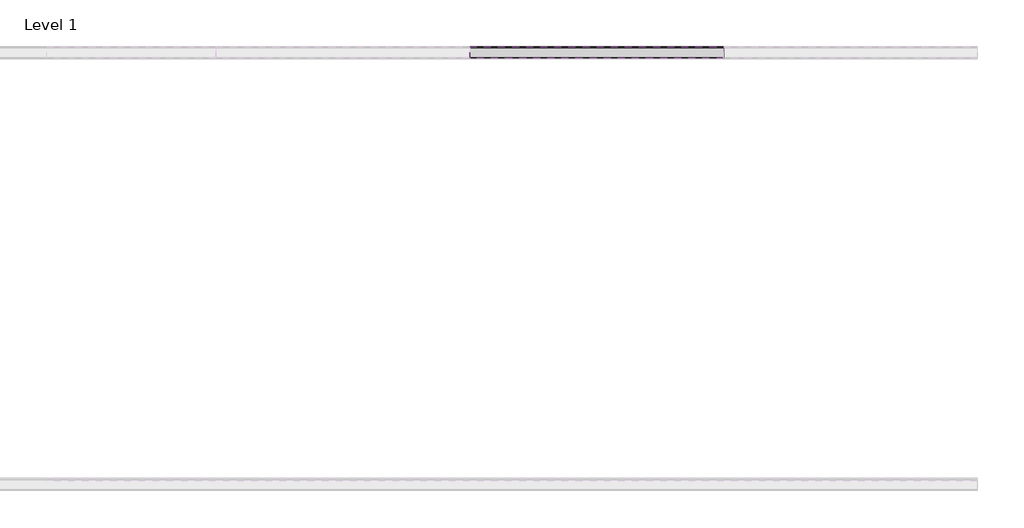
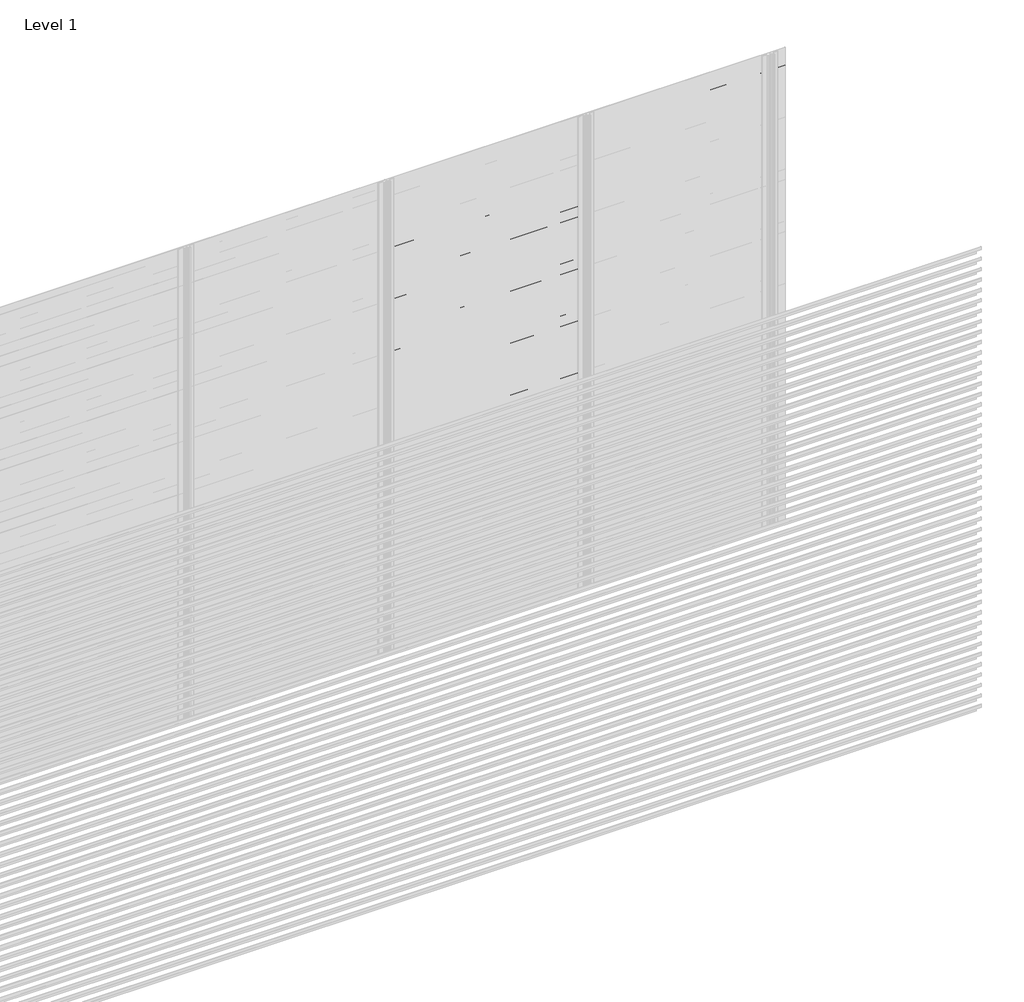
# One storey, part 23 of 540: 43 proxies.
"""IFC4 building model written with IfcOpenShell, lengths in millimetres."""

from ifc_helpers import new_model, si_unit, origin, place, context, project, spatial, faceted_brep, element, save

model = new_model("IFC4")

# Units and contexts
model_context = context("Model", 3, world=origin())
ifc_project = project(units=[si_unit("LENGTHUNIT", "METRE", prefix="MILLI")], contexts=[model_context])

# Site, building, storey
site = spatial("IfcSite", under=ifc_project)
building = spatial("IfcBuilding", under=site)
storey = spatial("IfcBuildingStorey", under=building, Name="Level 1", Elevation=0.0)

# Proxies
placement = place(None, origin())
element("IfcBuildingElementProxy", 1, Name="Wall Sweeps", at=placement, inside=storey, context=model_context, shape_type="Brep", body=[
    faceted_brep([(5266.6208097, 7042.0270068, 2583.5), (5266.6208097, 6988.2770068, 2621.0285629), (5266.6208097, 6988.2770068, 2640.0), (5266.6208097, 6987.0270068, 2640.0), (5266.6208097, 6987.0270068, 2620.3158044), (5266.6208097, 7040.7770068, 2582.7872415), (5266.6208097, 7040.7770068, 2564.2216933), (5266.6208097, 7042.0270068, 2563.5), (4066.6208097, 7042.0270068, 2583.5), (4066.6208097, 7042.0270068, 2563.5), (4066.6208097, 7040.7770068, 2564.2216933), (4066.6208097, 7040.7770068, 2582.7872415), (4066.6208097, 6987.0270068, 2620.3158044), (4066.6208097, 6987.0270068, 2640.0), (4066.6208097, 6988.2770068, 2640.0), (4066.6208097, 6988.2770068, 2621.0285629)], [[[0, 1, 2, 3, 4, 5, 6, 7]], [[8, 9, 10, 11, 12, 13, 14, 15]], [[1, 0, 8, 15]], [[2, 1, 15, 14]], [[4, 3, 13, 12]], [[6, 5, 11, 10]], [[7, 6, 10, 9]], [[0, 7, 9, 8]], [[3, 2, 14, 13]], [[5, 4, 12, 11]]]),
])
element("IfcBuildingElementProxy", 2, Name="Wall Sweeps", at=placement, inside=storey, context=model_context, shape_type="Brep", body=[
    faceted_brep([(5266.6208097, 7042.0270068, 2517.5), (5266.6208097, 6988.2770068, 2555.0285629), (5266.6208097, 6988.2770068, 2574.0), (5266.6208097, 6987.0270068, 2574.0), (5266.6208097, 6987.0270068, 2554.3158044), (5266.6208097, 7040.7770068, 2516.7872415), (5266.6208097, 7040.7770068, 2498.2216933), (5266.6208097, 7042.0270068, 2497.5), (4066.6208097, 7042.0270068, 2517.5), (4066.6208097, 7042.0270068, 2497.5), (4066.6208097, 7040.7770068, 2498.2216933), (4066.6208097, 7040.7770068, 2516.7872415), (4066.6208097, 6987.0270068, 2554.3158044), (4066.6208097, 6987.0270068, 2574.0), (4066.6208097, 6988.2770068, 2574.0), (4066.6208097, 6988.2770068, 2555.0285629)], [[[0, 1, 2, 3, 4, 5, 6, 7]], [[8, 9, 10, 11, 12, 13, 14, 15]], [[1, 0, 8, 15]], [[2, 1, 15, 14]], [[4, 3, 13, 12]], [[6, 5, 11, 10]], [[7, 6, 10, 9]], [[0, 7, 9, 8]], [[3, 2, 14, 13]], [[5, 4, 12, 11]]]),
])
element("IfcBuildingElementProxy", 3, Name="Wall Sweeps", at=placement, inside=storey, context=model_context, shape_type="Brep", body=[
    faceted_brep([(5266.6208097, 7042.0270068, 2451.5), (5266.6208097, 6988.2770068, 2489.0285629), (5266.6208097, 6988.2770068, 2508.0), (5266.6208097, 6987.0270068, 2508.0), (5266.6208097, 6987.0270068, 2488.3158044), (5266.6208097, 7040.7770068, 2450.7872415), (5266.6208097, 7040.7770068, 2432.2216933), (5266.6208097, 7042.0270068, 2431.5), (4066.6208097, 7042.0270068, 2451.5), (4066.6208097, 7042.0270068, 2431.5), (4066.6208097, 7040.7770068, 2432.2216933), (4066.6208097, 7040.7770068, 2450.7872415), (4066.6208097, 6987.0270068, 2488.3158044), (4066.6208097, 6987.0270068, 2508.0), (4066.6208097, 6988.2770068, 2508.0), (4066.6208097, 6988.2770068, 2489.0285629)], [[[0, 1, 2, 3, 4, 5, 6, 7]], [[8, 9, 10, 11, 12, 13, 14, 15]], [[1, 0, 8, 15]], [[2, 1, 15, 14]], [[4, 3, 13, 12]], [[6, 5, 11, 10]], [[7, 6, 10, 9]], [[0, 7, 9, 8]], [[3, 2, 14, 13]], [[5, 4, 12, 11]]]),
])
element("IfcBuildingElementProxy", 4, Name="Wall Sweeps", at=placement, inside=storey, context=model_context, shape_type="Brep", body=[
    faceted_brep([(5266.6208097, 7042.0270068, 2385.5), (5266.6208097, 6988.2770068, 2423.0285629), (5266.6208097, 6988.2770068, 2442.0), (5266.6208097, 6987.0270068, 2442.0), (5266.6208097, 6987.0270068, 2422.3158044), (5266.6208097, 7040.7770068, 2384.7872415), (5266.6208097, 7040.7770068, 2366.2216933), (5266.6208097, 7042.0270068, 2365.5), (4066.6208097, 7042.0270068, 2385.5), (4066.6208097, 7042.0270068, 2365.5), (4066.6208097, 7040.7770068, 2366.2216933), (4066.6208097, 7040.7770068, 2384.7872415), (4066.6208097, 6987.0270068, 2422.3158044), (4066.6208097, 6987.0270068, 2442.0), (4066.6208097, 6988.2770068, 2442.0), (4066.6208097, 6988.2770068, 2423.0285629)], [[[0, 1, 2, 3, 4, 5, 6, 7]], [[8, 9, 10, 11, 12, 13, 14, 15]], [[1, 0, 8, 15]], [[2, 1, 15, 14]], [[4, 3, 13, 12]], [[6, 5, 11, 10]], [[7, 6, 10, 9]], [[0, 7, 9, 8]], [[3, 2, 14, 13]], [[5, 4, 12, 11]]]),
])
element("IfcBuildingElementProxy", 5, Name="Wall Sweeps", at=placement, inside=storey, context=model_context, shape_type="Brep", body=[
    faceted_brep([(5266.6208097, 7042.0270068, 2319.5), (5266.6208097, 6988.2770068, 2357.0285629), (5266.6208097, 6988.2770068, 2376.0), (5266.6208097, 6987.0270068, 2376.0), (5266.6208097, 6987.0270068, 2356.3158044), (5266.6208097, 7040.7770068, 2318.7872415), (5266.6208097, 7040.7770068, 2300.2216933), (5266.6208097, 7042.0270068, 2299.5), (4066.6208097, 7042.0270068, 2319.5), (4066.6208097, 7042.0270068, 2299.5), (4066.6208097, 7040.7770068, 2300.2216933), (4066.6208097, 7040.7770068, 2318.7872415), (4066.6208097, 6987.0270068, 2356.3158044), (4066.6208097, 6987.0270068, 2376.0), (4066.6208097, 6988.2770068, 2376.0), (4066.6208097, 6988.2770068, 2357.0285629)], [[[0, 1, 2, 3, 4, 5, 6, 7]], [[8, 9, 10, 11, 12, 13, 14, 15]], [[1, 0, 8, 15]], [[2, 1, 15, 14]], [[4, 3, 13, 12]], [[6, 5, 11, 10]], [[7, 6, 10, 9]], [[0, 7, 9, 8]], [[3, 2, 14, 13]], [[5, 4, 12, 11]]]),
])
element("IfcBuildingElementProxy", 6, Name="Wall Sweeps", at=placement, inside=storey, context=model_context, shape_type="Brep", body=[
    faceted_brep([(5266.6208097, 7042.0270068, 2253.5), (5266.6208097, 6988.2770068, 2291.0285629), (5266.6208097, 6988.2770068, 2310.0), (5266.6208097, 6987.0270068, 2310.0), (5266.6208097, 6987.0270068, 2290.3158044), (5266.6208097, 7040.7770068, 2252.7872415), (5266.6208097, 7040.7770068, 2234.2216933), (5266.6208097, 7042.0270068, 2233.5), (4066.6208097, 7042.0270068, 2253.5), (4066.6208097, 7042.0270068, 2233.5), (4066.6208097, 7040.7770068, 2234.2216933), (4066.6208097, 7040.7770068, 2252.7872415), (4066.6208097, 6987.0270068, 2290.3158044), (4066.6208097, 6987.0270068, 2310.0), (4066.6208097, 6988.2770068, 2310.0), (4066.6208097, 6988.2770068, 2291.0285629)], [[[0, 1, 2, 3, 4, 5, 6, 7]], [[8, 9, 10, 11, 12, 13, 14, 15]], [[1, 0, 8, 15]], [[2, 1, 15, 14]], [[4, 3, 13, 12]], [[6, 5, 11, 10]], [[7, 6, 10, 9]], [[0, 7, 9, 8]], [[3, 2, 14, 13]], [[5, 4, 12, 11]]]),
])
element("IfcBuildingElementProxy", 7, Name="Wall Sweeps", at=placement, inside=storey, context=model_context, shape_type="Brep", body=[
    faceted_brep([(5266.6208097, 7042.0270068, 2187.5), (5266.6208097, 6988.2770068, 2225.0285629), (5266.6208097, 6988.2770068, 2244.0), (5266.6208097, 6987.0270068, 2244.0), (5266.6208097, 6987.0270068, 2224.3158044), (5266.6208097, 7040.7770068, 2186.7872415), (5266.6208097, 7040.7770068, 2168.2216933), (5266.6208097, 7042.0270068, 2167.5), (4066.6208097, 7042.0270068, 2187.5), (4066.6208097, 7042.0270068, 2167.5), (4066.6208097, 7040.7770068, 2168.2216933), (4066.6208097, 7040.7770068, 2186.7872415), (4066.6208097, 6987.0270068, 2224.3158044), (4066.6208097, 6987.0270068, 2244.0), (4066.6208097, 6988.2770068, 2244.0), (4066.6208097, 6988.2770068, 2225.0285629)], [[[0, 1, 2, 3, 4, 5, 6, 7]], [[8, 9, 10, 11, 12, 13, 14, 15]], [[1, 0, 8, 15]], [[2, 1, 15, 14]], [[4, 3, 13, 12]], [[6, 5, 11, 10]], [[7, 6, 10, 9]], [[0, 7, 9, 8]], [[3, 2, 14, 13]], [[5, 4, 12, 11]]]),
])
element("IfcBuildingElementProxy", 8, Name="Wall Sweeps", at=placement, inside=storey, context=model_context, shape_type="Brep", body=[
    faceted_brep([(5266.6208097, 7042.0270068, 2121.5), (5266.6208097, 6988.2770068, 2159.0285629), (5266.6208097, 6988.2770068, 2178.0), (5266.6208097, 6987.0270068, 2178.0), (5266.6208097, 6987.0270068, 2158.3158044), (5266.6208097, 7040.7770068, 2120.7872415), (5266.6208097, 7040.7770068, 2102.2216933), (5266.6208097, 7042.0270068, 2101.5), (4066.6208097, 7042.0270068, 2121.5), (4066.6208097, 7042.0270068, 2101.5), (4066.6208097, 7040.7770068, 2102.2216933), (4066.6208097, 7040.7770068, 2120.7872415), (4066.6208097, 6987.0270068, 2158.3158044), (4066.6208097, 6987.0270068, 2178.0), (4066.6208097, 6988.2770068, 2178.0), (4066.6208097, 6988.2770068, 2159.0285629)], [[[0, 1, 2, 3, 4, 5, 6, 7]], [[8, 9, 10, 11, 12, 13, 14, 15]], [[1, 0, 8, 15]], [[2, 1, 15, 14]], [[4, 3, 13, 12]], [[6, 5, 11, 10]], [[7, 6, 10, 9]], [[0, 7, 9, 8]], [[3, 2, 14, 13]], [[5, 4, 12, 11]]]),
])
element("IfcBuildingElementProxy", 9, Name="Wall Sweeps", at=placement, inside=storey, context=model_context, shape_type="Brep", body=[
    faceted_brep([(5266.6208097, 7042.0270068, 2055.5), (5266.6208097, 6988.2770068, 2093.0285629), (5266.6208097, 6988.2770068, 2112.0), (5266.6208097, 6987.0270068, 2112.0), (5266.6208097, 6987.0270068, 2092.3158044), (5266.6208097, 7040.7770068, 2054.7872415), (5266.6208097, 7040.7770068, 2036.2216933), (5266.6208097, 7042.0270068, 2035.5), (4066.6208097, 7042.0270068, 2055.5), (4066.6208097, 7042.0270068, 2035.5), (4066.6208097, 7040.7770068, 2036.2216933), (4066.6208097, 7040.7770068, 2054.7872415), (4066.6208097, 6987.0270068, 2092.3158044), (4066.6208097, 6987.0270068, 2112.0), (4066.6208097, 6988.2770068, 2112.0), (4066.6208097, 6988.2770068, 2093.0285629)], [[[0, 1, 2, 3, 4, 5, 6, 7]], [[8, 9, 10, 11, 12, 13, 14, 15]], [[1, 0, 8, 15]], [[2, 1, 15, 14]], [[4, 3, 13, 12]], [[6, 5, 11, 10]], [[7, 6, 10, 9]], [[0, 7, 9, 8]], [[3, 2, 14, 13]], [[5, 4, 12, 11]]]),
])
element("IfcBuildingElementProxy", 10, Name="Wall Sweeps", at=placement, inside=storey, context=model_context, shape_type="Brep", body=[
    faceted_brep([(5266.6208097, 7042.0270068, 1989.5), (5266.6208097, 6988.2770068, 2027.0285629), (5266.6208097, 6988.2770068, 2046.0), (5266.6208097, 6987.0270068, 2046.0), (5266.6208097, 6987.0270068, 2026.3158044), (5266.6208097, 7040.7770068, 1988.7872415), (5266.6208097, 7040.7770068, 1970.2216933), (5266.6208097, 7042.0270068, 1969.5), (4066.6208097, 7042.0270068, 1989.5), (4066.6208097, 7042.0270068, 1969.5), (4066.6208097, 7040.7770068, 1970.2216933), (4066.6208097, 7040.7770068, 1988.7872415), (4066.6208097, 6987.0270068, 2026.3158044), (4066.6208097, 6987.0270068, 2046.0), (4066.6208097, 6988.2770068, 2046.0), (4066.6208097, 6988.2770068, 2027.0285629)], [[[0, 1, 2, 3, 4, 5, 6, 7]], [[8, 9, 10, 11, 12, 13, 14, 15]], [[1, 0, 8, 15]], [[2, 1, 15, 14]], [[4, 3, 13, 12]], [[6, 5, 11, 10]], [[7, 6, 10, 9]], [[0, 7, 9, 8]], [[3, 2, 14, 13]], [[5, 4, 12, 11]]]),
])
element("IfcBuildingElementProxy", 11, Name="Wall Sweeps", at=placement, inside=storey, context=model_context, shape_type="Brep", body=[
    faceted_brep([(5266.6208097, 7042.0270068, 1923.5), (5266.6208097, 6988.2770068, 1961.0285629), (5266.6208097, 6988.2770068, 1980.0), (5266.6208097, 6987.0270068, 1980.0), (5266.6208097, 6987.0270068, 1960.3158044), (5266.6208097, 7040.7770068, 1922.7872415), (5266.6208097, 7040.7770068, 1904.2216933), (5266.6208097, 7042.0270068, 1903.5), (4066.6208097, 7042.0270068, 1923.5), (4066.6208097, 7042.0270068, 1903.5), (4066.6208097, 7040.7770068, 1904.2216933), (4066.6208097, 7040.7770068, 1922.7872415), (4066.6208097, 6987.0270068, 1960.3158044), (4066.6208097, 6987.0270068, 1980.0), (4066.6208097, 6988.2770068, 1980.0), (4066.6208097, 6988.2770068, 1961.0285629)], [[[0, 1, 2, 3, 4, 5, 6, 7]], [[8, 9, 10, 11, 12, 13, 14, 15]], [[1, 0, 8, 15]], [[2, 1, 15, 14]], [[4, 3, 13, 12]], [[6, 5, 11, 10]], [[7, 6, 10, 9]], [[0, 7, 9, 8]], [[3, 2, 14, 13]], [[5, 4, 12, 11]]]),
])
element("IfcBuildingElementProxy", 12, Name="Wall Sweeps", at=placement, inside=storey, context=model_context, shape_type="Brep", body=[
    faceted_brep([(5266.6208097, 7042.0270068, 1857.5), (5266.6208097, 6988.2770068, 1895.0285629), (5266.6208097, 6988.2770068, 1914.0), (5266.6208097, 6987.0270068, 1914.0), (5266.6208097, 6987.0270068, 1894.3158044), (5266.6208097, 7040.7770068, 1856.7872415), (5266.6208097, 7040.7770068, 1838.2216933), (5266.6208097, 7042.0270068, 1837.5), (4066.6208097, 7042.0270068, 1857.5), (4066.6208097, 7042.0270068, 1837.5), (4066.6208097, 7040.7770068, 1838.2216933), (4066.6208097, 7040.7770068, 1856.7872415), (4066.6208097, 6987.0270068, 1894.3158044), (4066.6208097, 6987.0270068, 1914.0), (4066.6208097, 6988.2770068, 1914.0), (4066.6208097, 6988.2770068, 1895.0285629)], [[[0, 1, 2, 3, 4, 5, 6, 7]], [[8, 9, 10, 11, 12, 13, 14, 15]], [[1, 0, 8, 15]], [[2, 1, 15, 14]], [[4, 3, 13, 12]], [[6, 5, 11, 10]], [[7, 6, 10, 9]], [[0, 7, 9, 8]], [[3, 2, 14, 13]], [[5, 4, 12, 11]]]),
])
element("IfcBuildingElementProxy", 13, Name="Wall Sweeps", at=placement, inside=storey, context=model_context, shape_type="Brep", body=[
    faceted_brep([(5266.6208097, 7042.0270068, 1791.5), (5266.6208097, 6988.2770068, 1829.0285629), (5266.6208097, 6988.2770068, 1848.0), (5266.6208097, 6987.0270068, 1848.0), (5266.6208097, 6987.0270068, 1828.3158044), (5266.6208097, 7040.7770068, 1790.7872415), (5266.6208097, 7040.7770068, 1772.2216933), (5266.6208097, 7042.0270068, 1771.5), (4066.6208097, 7042.0270068, 1791.5), (4066.6208097, 7042.0270068, 1771.5), (4066.6208097, 7040.7770068, 1772.2216933), (4066.6208097, 7040.7770068, 1790.7872415), (4066.6208097, 6987.0270068, 1828.3158044), (4066.6208097, 6987.0270068, 1848.0), (4066.6208097, 6988.2770068, 1848.0), (4066.6208097, 6988.2770068, 1829.0285629)], [[[0, 1, 2, 3, 4, 5, 6, 7]], [[8, 9, 10, 11, 12, 13, 14, 15]], [[1, 0, 8, 15]], [[2, 1, 15, 14]], [[4, 3, 13, 12]], [[6, 5, 11, 10]], [[7, 6, 10, 9]], [[0, 7, 9, 8]], [[3, 2, 14, 13]], [[5, 4, 12, 11]]]),
])
element("IfcBuildingElementProxy", 14, Name="Wall Sweeps", at=placement, inside=storey, context=model_context, shape_type="Brep", body=[
    faceted_brep([(5266.6208097, 7042.0270068, 1725.5), (5266.6208097, 6988.2770068, 1763.0285629), (5266.6208097, 6988.2770068, 1782.0), (5266.6208097, 6987.0270068, 1782.0), (5266.6208097, 6987.0270068, 1762.3158044), (5266.6208097, 7040.7770068, 1724.7872415), (5266.6208097, 7040.7770068, 1706.2216933), (5266.6208097, 7042.0270068, 1705.5), (4066.6208097, 7042.0270068, 1725.5), (4066.6208097, 7042.0270068, 1705.5), (4066.6208097, 7040.7770068, 1706.2216933), (4066.6208097, 7040.7770068, 1724.7872415), (4066.6208097, 6987.0270068, 1762.3158044), (4066.6208097, 6987.0270068, 1782.0), (4066.6208097, 6988.2770068, 1782.0), (4066.6208097, 6988.2770068, 1763.0285629)], [[[0, 1, 2, 3, 4, 5, 6, 7]], [[8, 9, 10, 11, 12, 13, 14, 15]], [[1, 0, 8, 15]], [[2, 1, 15, 14]], [[4, 3, 13, 12]], [[6, 5, 11, 10]], [[7, 6, 10, 9]], [[0, 7, 9, 8]], [[3, 2, 14, 13]], [[5, 4, 12, 11]]]),
])
element("IfcBuildingElementProxy", 15, Name="Wall Sweeps", at=placement, inside=storey, context=model_context, shape_type="Brep", body=[
    faceted_brep([(5266.6208097, 7042.0270068, 1659.5), (5266.6208097, 6988.2770068, 1697.0285629), (5266.6208097, 6988.2770068, 1716.0), (5266.6208097, 6987.0270068, 1716.0), (5266.6208097, 6987.0270068, 1696.3158044), (5266.6208097, 7040.7770068, 1658.7872415), (5266.6208097, 7040.7770068, 1640.2216933), (5266.6208097, 7042.0270068, 1639.5), (4066.6208097, 7042.0270068, 1659.5), (4066.6208097, 7042.0270068, 1639.5), (4066.6208097, 7040.7770068, 1640.2216933), (4066.6208097, 7040.7770068, 1658.7872415), (4066.6208097, 6987.0270068, 1696.3158044), (4066.6208097, 6987.0270068, 1716.0), (4066.6208097, 6988.2770068, 1716.0), (4066.6208097, 6988.2770068, 1697.0285629)], [[[0, 1, 2, 3, 4, 5, 6, 7]], [[8, 9, 10, 11, 12, 13, 14, 15]], [[1, 0, 8, 15]], [[2, 1, 15, 14]], [[4, 3, 13, 12]], [[6, 5, 11, 10]], [[7, 6, 10, 9]], [[0, 7, 9, 8]], [[3, 2, 14, 13]], [[5, 4, 12, 11]]]),
])
element("IfcBuildingElementProxy", 16, Name="Wall Sweeps", at=placement, inside=storey, context=model_context, shape_type="Brep", body=[
    faceted_brep([(5266.6208097, 7042.0270068, 1593.5), (5266.6208097, 6988.2770068, 1631.0285629), (5266.6208097, 6988.2770068, 1650.0), (5266.6208097, 6987.0270068, 1650.0), (5266.6208097, 6987.0270068, 1630.3158044), (5266.6208097, 7040.7770068, 1592.7872415), (5266.6208097, 7040.7770068, 1574.2216933), (5266.6208097, 7042.0270068, 1573.5), (4066.6208097, 7042.0270068, 1593.5), (4066.6208097, 7042.0270068, 1573.5), (4066.6208097, 7040.7770068, 1574.2216933), (4066.6208097, 7040.7770068, 1592.7872415), (4066.6208097, 6987.0270068, 1630.3158044), (4066.6208097, 6987.0270068, 1650.0), (4066.6208097, 6988.2770068, 1650.0), (4066.6208097, 6988.2770068, 1631.0285629)], [[[0, 1, 2, 3, 4, 5, 6, 7]], [[8, 9, 10, 11, 12, 13, 14, 15]], [[1, 0, 8, 15]], [[2, 1, 15, 14]], [[4, 3, 13, 12]], [[6, 5, 11, 10]], [[7, 6, 10, 9]], [[0, 7, 9, 8]], [[3, 2, 14, 13]], [[5, 4, 12, 11]]]),
])
element("IfcBuildingElementProxy", 17, Name="Wall Sweeps", at=placement, inside=storey, context=model_context, shape_type="Brep", body=[
    faceted_brep([(5266.6208097, 7042.0270068, 1527.5), (5266.6208097, 6988.2770068, 1565.0285629), (5266.6208097, 6988.2770068, 1584.0), (5266.6208097, 6987.0270068, 1584.0), (5266.6208097, 6987.0270068, 1564.3158044), (5266.6208097, 7040.7770068, 1526.7872415), (5266.6208097, 7040.7770068, 1508.2216933), (5266.6208097, 7042.0270068, 1507.5), (4066.6208097, 7042.0270068, 1527.5), (4066.6208097, 7042.0270068, 1507.5), (4066.6208097, 7040.7770068, 1508.2216933), (4066.6208097, 7040.7770068, 1526.7872415), (4066.6208097, 6987.0270068, 1564.3158044), (4066.6208097, 6987.0270068, 1584.0), (4066.6208097, 6988.2770068, 1584.0), (4066.6208097, 6988.2770068, 1565.0285629)], [[[0, 1, 2, 3, 4, 5, 6, 7]], [[8, 9, 10, 11, 12, 13, 14, 15]], [[1, 0, 8, 15]], [[2, 1, 15, 14]], [[4, 3, 13, 12]], [[6, 5, 11, 10]], [[7, 6, 10, 9]], [[0, 7, 9, 8]], [[3, 2, 14, 13]], [[5, 4, 12, 11]]]),
])
element("IfcBuildingElementProxy", 18, Name="Wall Sweeps", at=placement, inside=storey, context=model_context, shape_type="Brep", body=[
    faceted_brep([(5266.6208097, 7042.0270068, 1461.5), (5266.6208097, 6988.2770068, 1499.0285629), (5266.6208097, 6988.2770068, 1518.0), (5266.6208097, 6987.0270068, 1518.0), (5266.6208097, 6987.0270068, 1498.3158044), (5266.6208097, 7040.7770068, 1460.7872415), (5266.6208097, 7040.7770068, 1442.2216933), (5266.6208097, 7042.0270068, 1441.5), (4066.6208097, 7042.0270068, 1461.5), (4066.6208097, 7042.0270068, 1441.5), (4066.6208097, 7040.7770068, 1442.2216933), (4066.6208097, 7040.7770068, 1460.7872415), (4066.6208097, 6987.0270068, 1498.3158044), (4066.6208097, 6987.0270068, 1518.0), (4066.6208097, 6988.2770068, 1518.0), (4066.6208097, 6988.2770068, 1499.0285629)], [[[0, 1, 2, 3, 4, 5, 6, 7]], [[8, 9, 10, 11, 12, 13, 14, 15]], [[1, 0, 8, 15]], [[2, 1, 15, 14]], [[4, 3, 13, 12]], [[6, 5, 11, 10]], [[7, 6, 10, 9]], [[0, 7, 9, 8]], [[3, 2, 14, 13]], [[5, 4, 12, 11]]]),
])
element("IfcBuildingElementProxy", 19, Name="Wall Sweeps", at=placement, inside=storey, context=model_context, shape_type="Brep", body=[
    faceted_brep([(5266.6208097, 7042.0270068, 1395.5), (5266.6208097, 6988.2770068, 1433.0285629), (5266.6208097, 6988.2770068, 1452.0), (5266.6208097, 6987.0270068, 1452.0), (5266.6208097, 6987.0270068, 1432.3158044), (5266.6208097, 7040.7770068, 1394.7872415), (5266.6208097, 7040.7770068, 1376.2216933), (5266.6208097, 7042.0270068, 1375.5), (4066.6208097, 7042.0270068, 1395.5), (4066.6208097, 7042.0270068, 1375.5), (4066.6208097, 7040.7770068, 1376.2216933), (4066.6208097, 7040.7770068, 1394.7872415), (4066.6208097, 6987.0270068, 1432.3158044), (4066.6208097, 6987.0270068, 1452.0), (4066.6208097, 6988.2770068, 1452.0), (4066.6208097, 6988.2770068, 1433.0285629)], [[[0, 1, 2, 3, 4, 5, 6, 7]], [[8, 9, 10, 11, 12, 13, 14, 15]], [[1, 0, 8, 15]], [[2, 1, 15, 14]], [[4, 3, 13, 12]], [[6, 5, 11, 10]], [[7, 6, 10, 9]], [[0, 7, 9, 8]], [[3, 2, 14, 13]], [[5, 4, 12, 11]]]),
])
element("IfcBuildingElementProxy", 20, Name="Wall Sweeps", at=placement, inside=storey, context=model_context, shape_type="Brep", body=[
    faceted_brep([(5266.6208097, 7042.0270068, 1329.5), (5266.6208097, 6988.2770068, 1367.0285629), (5266.6208097, 6988.2770068, 1386.0), (5266.6208097, 6987.0270068, 1386.0), (5266.6208097, 6987.0270068, 1366.3158044), (5266.6208097, 7040.7770068, 1328.7872415), (5266.6208097, 7040.7770068, 1310.2216933), (5266.6208097, 7042.0270068, 1309.5), (4066.6208097, 7042.0270068, 1329.5), (4066.6208097, 7042.0270068, 1309.5), (4066.6208097, 7040.7770068, 1310.2216933), (4066.6208097, 7040.7770068, 1328.7872415), (4066.6208097, 6987.0270068, 1366.3158044), (4066.6208097, 6987.0270068, 1386.0), (4066.6208097, 6988.2770068, 1386.0), (4066.6208097, 6988.2770068, 1367.0285629)], [[[0, 1, 2, 3, 4, 5, 6, 7]], [[8, 9, 10, 11, 12, 13, 14, 15]], [[1, 0, 8, 15]], [[2, 1, 15, 14]], [[4, 3, 13, 12]], [[6, 5, 11, 10]], [[7, 6, 10, 9]], [[0, 7, 9, 8]], [[3, 2, 14, 13]], [[5, 4, 12, 11]]]),
])
element("IfcBuildingElementProxy", 21, Name="Wall Sweeps", at=placement, inside=storey, context=model_context, shape_type="Brep", body=[
    faceted_brep([(5266.6208097, 7042.0270068, 1263.5), (5266.6208097, 6988.2770068, 1301.0285629), (5266.6208097, 6988.2770068, 1320.0), (5266.6208097, 6987.0270068, 1320.0), (5266.6208097, 6987.0270068, 1300.3158044), (5266.6208097, 7040.7770068, 1262.7872415), (5266.6208097, 7040.7770068, 1244.2216933), (5266.6208097, 7042.0270068, 1243.5), (4066.6208097, 7042.0270068, 1263.5), (4066.6208097, 7042.0270068, 1243.5), (4066.6208097, 7040.7770068, 1244.2216933), (4066.6208097, 7040.7770068, 1262.7872415), (4066.6208097, 6987.0270068, 1300.3158044), (4066.6208097, 6987.0270068, 1320.0), (4066.6208097, 6988.2770068, 1320.0), (4066.6208097, 6988.2770068, 1301.0285629)], [[[0, 1, 2, 3, 4, 5, 6, 7]], [[8, 9, 10, 11, 12, 13, 14, 15]], [[1, 0, 8, 15]], [[2, 1, 15, 14]], [[4, 3, 13, 12]], [[6, 5, 11, 10]], [[7, 6, 10, 9]], [[0, 7, 9, 8]], [[3, 2, 14, 13]], [[5, 4, 12, 11]]]),
])
element("IfcBuildingElementProxy", 22, Name="Wall Sweeps", at=placement, inside=storey, context=model_context, shape_type="Brep", body=[
    faceted_brep([(5266.6208097, 7042.0270068, 1197.5), (5266.6208097, 6988.2770068, 1235.0285629), (5266.6208097, 6988.2770068, 1254.0), (5266.6208097, 6987.0270068, 1254.0), (5266.6208097, 6987.0270068, 1234.3158044), (5266.6208097, 7040.7770068, 1196.7872415), (5266.6208097, 7040.7770068, 1178.2216933), (5266.6208097, 7042.0270068, 1177.5), (4066.6208097, 7042.0270068, 1197.5), (4066.6208097, 7042.0270068, 1177.5), (4066.6208097, 7040.7770068, 1178.2216933), (4066.6208097, 7040.7770068, 1196.7872415), (4066.6208097, 6987.0270068, 1234.3158044), (4066.6208097, 6987.0270068, 1254.0), (4066.6208097, 6988.2770068, 1254.0), (4066.6208097, 6988.2770068, 1235.0285629)], [[[0, 1, 2, 3, 4, 5, 6, 7]], [[8, 9, 10, 11, 12, 13, 14, 15]], [[1, 0, 8, 15]], [[2, 1, 15, 14]], [[4, 3, 13, 12]], [[6, 5, 11, 10]], [[7, 6, 10, 9]], [[0, 7, 9, 8]], [[3, 2, 14, 13]], [[5, 4, 12, 11]]]),
])
element("IfcBuildingElementProxy", 23, Name="Wall Sweeps", at=placement, inside=storey, context=model_context, shape_type="Brep", body=[
    faceted_brep([(5266.6208097, 7042.0270068, 1131.5), (5266.6208097, 6988.2770068, 1169.0285629), (5266.6208097, 6988.2770068, 1188.0), (5266.6208097, 6987.0270068, 1188.0), (5266.6208097, 6987.0270068, 1168.3158044), (5266.6208097, 7040.7770068, 1130.7872415), (5266.6208097, 7040.7770068, 1112.2216933), (5266.6208097, 7042.0270068, 1111.5), (4066.6208097, 7042.0270068, 1131.5), (4066.6208097, 7042.0270068, 1111.5), (4066.6208097, 7040.7770068, 1112.2216933), (4066.6208097, 7040.7770068, 1130.7872415), (4066.6208097, 6987.0270068, 1168.3158044), (4066.6208097, 6987.0270068, 1188.0), (4066.6208097, 6988.2770068, 1188.0), (4066.6208097, 6988.2770068, 1169.0285629)], [[[0, 1, 2, 3, 4, 5, 6, 7]], [[8, 9, 10, 11, 12, 13, 14, 15]], [[1, 0, 8, 15]], [[2, 1, 15, 14]], [[4, 3, 13, 12]], [[6, 5, 11, 10]], [[7, 6, 10, 9]], [[0, 7, 9, 8]], [[3, 2, 14, 13]], [[5, 4, 12, 11]]]),
])
element("IfcBuildingElementProxy", 24, Name="Wall Sweeps", at=placement, inside=storey, context=model_context, shape_type="Brep", body=[
    faceted_brep([(5266.6208097, 7042.0270068, 1065.5), (5266.6208097, 6988.2770068, 1103.0285629), (5266.6208097, 6988.2770068, 1122.0), (5266.6208097, 6987.0270068, 1122.0), (5266.6208097, 6987.0270068, 1102.3158044), (5266.6208097, 7040.7770068, 1064.7872415), (5266.6208097, 7040.7770068, 1046.2216933), (5266.6208097, 7042.0270068, 1045.5), (4066.6208097, 7042.0270068, 1065.5), (4066.6208097, 7042.0270068, 1045.5), (4066.6208097, 7040.7770068, 1046.2216933), (4066.6208097, 7040.7770068, 1064.7872415), (4066.6208097, 6987.0270068, 1102.3158044), (4066.6208097, 6987.0270068, 1122.0), (4066.6208097, 6988.2770068, 1122.0), (4066.6208097, 6988.2770068, 1103.0285629)], [[[0, 1, 2, 3, 4, 5, 6, 7]], [[8, 9, 10, 11, 12, 13, 14, 15]], [[1, 0, 8, 15]], [[2, 1, 15, 14]], [[4, 3, 13, 12]], [[6, 5, 11, 10]], [[7, 6, 10, 9]], [[0, 7, 9, 8]], [[3, 2, 14, 13]], [[5, 4, 12, 11]]]),
])
element("IfcBuildingElementProxy", 25, Name="Wall Sweeps", at=placement, inside=storey, context=model_context, shape_type="Brep", body=[
    faceted_brep([(5266.6208097, 7042.0270068, 999.5), (5266.6208097, 6988.2770068, 1037.0285629), (5266.6208097, 6988.2770068, 1056.0), (5266.6208097, 6987.0270068, 1056.0), (5266.6208097, 6987.0270068, 1036.3158044), (5266.6208097, 7040.7770068, 998.7872415), (5266.6208097, 7040.7770068, 980.2216933), (5266.6208097, 7042.0270068, 979.5), (4066.6208097, 7042.0270068, 999.5), (4066.6208097, 7042.0270068, 979.5), (4066.6208097, 7040.7770068, 980.2216933), (4066.6208097, 7040.7770068, 998.7872415), (4066.6208097, 6987.0270068, 1036.3158044), (4066.6208097, 6987.0270068, 1056.0), (4066.6208097, 6988.2770068, 1056.0), (4066.6208097, 6988.2770068, 1037.0285629)], [[[0, 1, 2, 3, 4, 5, 6, 7]], [[8, 9, 10, 11, 12, 13, 14, 15]], [[1, 0, 8, 15]], [[2, 1, 15, 14]], [[4, 3, 13, 12]], [[6, 5, 11, 10]], [[7, 6, 10, 9]], [[0, 7, 9, 8]], [[3, 2, 14, 13]], [[5, 4, 12, 11]]]),
])
element("IfcBuildingElementProxy", 26, Name="Wall Sweeps", at=placement, inside=storey, context=model_context, shape_type="Brep", body=[
    faceted_brep([(5266.6208097, 7042.0270068, 933.5), (5266.6208097, 6988.2770068, 971.0285629), (5266.6208097, 6988.2770068, 990.0), (5266.6208097, 6987.0270068, 990.0), (5266.6208097, 6987.0270068, 970.3158044), (5266.6208097, 7040.7770068, 932.7872415), (5266.6208097, 7040.7770068, 914.2216933), (5266.6208097, 7042.0270068, 913.5), (4066.6208097, 7042.0270068, 933.5), (4066.6208097, 7042.0270068, 913.5), (4066.6208097, 7040.7770068, 914.2216933), (4066.6208097, 7040.7770068, 932.7872415), (4066.6208097, 6987.0270068, 970.3158044), (4066.6208097, 6987.0270068, 990.0), (4066.6208097, 6988.2770068, 990.0), (4066.6208097, 6988.2770068, 971.0285629)], [[[0, 1, 2, 3, 4, 5, 6, 7]], [[8, 9, 10, 11, 12, 13, 14, 15]], [[1, 0, 8, 15]], [[2, 1, 15, 14]], [[4, 3, 13, 12]], [[6, 5, 11, 10]], [[7, 6, 10, 9]], [[0, 7, 9, 8]], [[3, 2, 14, 13]], [[5, 4, 12, 11]]]),
])
element("IfcBuildingElementProxy", 27, Name="Wall Sweeps", at=placement, inside=storey, context=model_context, shape_type="Brep", body=[
    faceted_brep([(5266.6208097, 7042.0270068, 867.5), (5266.6208097, 6988.2770068, 905.0285629), (5266.6208097, 6988.2770068, 924.0), (5266.6208097, 6987.0270068, 924.0), (5266.6208097, 6987.0270068, 904.3158044), (5266.6208097, 7040.7770068, 866.7872415), (5266.6208097, 7040.7770068, 848.2216933), (5266.6208097, 7042.0270068, 847.5), (4066.6208097, 7042.0270068, 867.5), (4066.6208097, 7042.0270068, 847.5), (4066.6208097, 7040.7770068, 848.2216933), (4066.6208097, 7040.7770068, 866.7872415), (4066.6208097, 6987.0270068, 904.3158044), (4066.6208097, 6987.0270068, 924.0), (4066.6208097, 6988.2770068, 924.0), (4066.6208097, 6988.2770068, 905.0285629)], [[[0, 1, 2, 3, 4, 5, 6, 7]], [[8, 9, 10, 11, 12, 13, 14, 15]], [[1, 0, 8, 15]], [[2, 1, 15, 14]], [[4, 3, 13, 12]], [[6, 5, 11, 10]], [[7, 6, 10, 9]], [[0, 7, 9, 8]], [[3, 2, 14, 13]], [[5, 4, 12, 11]]]),
])
element("IfcBuildingElementProxy", 28, Name="Wall Sweeps", at=placement, inside=storey, context=model_context, shape_type="Brep", body=[
    faceted_brep([(5266.6208097, 7042.0270068, 801.5), (5266.6208097, 6988.2770068, 839.0285629), (5266.6208097, 6988.2770068, 858.0), (5266.6208097, 6987.0270068, 858.0), (5266.6208097, 6987.0270068, 838.3158044), (5266.6208097, 7040.7770068, 800.7872415), (5266.6208097, 7040.7770068, 782.2216933), (5266.6208097, 7042.0270068, 781.5), (4066.6208097, 7042.0270068, 801.5), (4066.6208097, 7042.0270068, 781.5), (4066.6208097, 7040.7770068, 782.2216933), (4066.6208097, 7040.7770068, 800.7872415), (4066.6208097, 6987.0270068, 838.3158044), (4066.6208097, 6987.0270068, 858.0), (4066.6208097, 6988.2770068, 858.0), (4066.6208097, 6988.2770068, 839.0285629)], [[[0, 1, 2, 3, 4, 5, 6, 7]], [[8, 9, 10, 11, 12, 13, 14, 15]], [[1, 0, 8, 15]], [[2, 1, 15, 14]], [[4, 3, 13, 12]], [[6, 5, 11, 10]], [[7, 6, 10, 9]], [[0, 7, 9, 8]], [[3, 2, 14, 13]], [[5, 4, 12, 11]]]),
])
element("IfcBuildingElementProxy", 29, Name="Wall Sweeps", at=placement, inside=storey, context=model_context, shape_type="Brep", body=[
    faceted_brep([(5266.6208097, 7042.0270068, 735.5), (5266.6208097, 6988.2770068, 773.0285629), (5266.6208097, 6988.2770068, 792.0), (5266.6208097, 6987.0270068, 792.0), (5266.6208097, 6987.0270068, 772.3158044), (5266.6208097, 7040.7770068, 734.7872415), (5266.6208097, 7040.7770068, 716.2216933), (5266.6208097, 7042.0270068, 715.5), (4066.6208097, 7042.0270068, 735.5), (4066.6208097, 7042.0270068, 715.5), (4066.6208097, 7040.7770068, 716.2216933), (4066.6208097, 7040.7770068, 734.7872415), (4066.6208097, 6987.0270068, 772.3158044), (4066.6208097, 6987.0270068, 792.0), (4066.6208097, 6988.2770068, 792.0), (4066.6208097, 6988.2770068, 773.0285629)], [[[0, 1, 2, 3, 4, 5, 6, 7]], [[8, 9, 10, 11, 12, 13, 14, 15]], [[1, 0, 8, 15]], [[2, 1, 15, 14]], [[4, 3, 13, 12]], [[6, 5, 11, 10]], [[7, 6, 10, 9]], [[0, 7, 9, 8]], [[3, 2, 14, 13]], [[5, 4, 12, 11]]]),
])
element("IfcBuildingElementProxy", 30, Name="Wall Sweeps", at=placement, inside=storey, context=model_context, shape_type="Brep", body=[
    faceted_brep([(5266.6208097, 7042.0270068, 669.5), (5266.6208097, 6988.2770068, 707.0285629), (5266.6208097, 6988.2770068, 726.0), (5266.6208097, 6987.0270068, 726.0), (5266.6208097, 6987.0270068, 706.3158044), (5266.6208097, 7040.7770068, 668.7872415), (5266.6208097, 7040.7770068, 650.2216933), (5266.6208097, 7042.0270068, 649.5), (4066.6208097, 7042.0270068, 669.5), (4066.6208097, 7042.0270068, 649.5), (4066.6208097, 7040.7770068, 650.2216933), (4066.6208097, 7040.7770068, 668.7872415), (4066.6208097, 6987.0270068, 706.3158044), (4066.6208097, 6987.0270068, 726.0), (4066.6208097, 6988.2770068, 726.0), (4066.6208097, 6988.2770068, 707.0285629)], [[[0, 1, 2, 3, 4, 5, 6, 7]], [[8, 9, 10, 11, 12, 13, 14, 15]], [[1, 0, 8, 15]], [[2, 1, 15, 14]], [[4, 3, 13, 12]], [[6, 5, 11, 10]], [[7, 6, 10, 9]], [[0, 7, 9, 8]], [[3, 2, 14, 13]], [[5, 4, 12, 11]]]),
])
element("IfcBuildingElementProxy", 31, Name="Wall Sweeps", at=placement, inside=storey, context=model_context, shape_type="Brep", body=[
    faceted_brep([(5266.6208097, 7042.0270068, 603.5), (5266.6208097, 6988.2770068, 641.0285629), (5266.6208097, 6988.2770068, 660.0), (5266.6208097, 6987.0270068, 660.0), (5266.6208097, 6987.0270068, 640.3158044), (5266.6208097, 7040.7770068, 602.7872415), (5266.6208097, 7040.7770068, 584.2216933), (5266.6208097, 7042.0270068, 583.5), (4066.6208097, 7042.0270068, 603.5), (4066.6208097, 7042.0270068, 583.5), (4066.6208097, 7040.7770068, 584.2216933), (4066.6208097, 7040.7770068, 602.7872415), (4066.6208097, 6987.0270068, 640.3158044), (4066.6208097, 6987.0270068, 660.0), (4066.6208097, 6988.2770068, 660.0), (4066.6208097, 6988.2770068, 641.0285629)], [[[0, 1, 2, 3, 4, 5, 6, 7]], [[8, 9, 10, 11, 12, 13, 14, 15]], [[1, 0, 8, 15]], [[2, 1, 15, 14]], [[4, 3, 13, 12]], [[6, 5, 11, 10]], [[7, 6, 10, 9]], [[0, 7, 9, 8]], [[3, 2, 14, 13]], [[5, 4, 12, 11]]]),
])
element("IfcBuildingElementProxy", 32, Name="Wall Sweeps", at=placement, inside=storey, context=model_context, shape_type="Brep", body=[
    faceted_brep([(5266.6208097, 7042.0270068, 537.5), (5266.6208097, 6988.2770068, 575.0285629), (5266.6208097, 6988.2770068, 594.0), (5266.6208097, 6987.0270068, 594.0), (5266.6208097, 6987.0270068, 574.3158044), (5266.6208097, 7040.7770068, 536.7872415), (5266.6208097, 7040.7770068, 518.2216933), (5266.6208097, 7042.0270068, 517.5), (4066.6208097, 7042.0270068, 537.5), (4066.6208097, 7042.0270068, 517.5), (4066.6208097, 7040.7770068, 518.2216933), (4066.6208097, 7040.7770068, 536.7872415), (4066.6208097, 6987.0270068, 574.3158044), (4066.6208097, 6987.0270068, 594.0), (4066.6208097, 6988.2770068, 594.0), (4066.6208097, 6988.2770068, 575.0285629)], [[[0, 1, 2, 3, 4, 5, 6, 7]], [[8, 9, 10, 11, 12, 13, 14, 15]], [[1, 0, 8, 15]], [[2, 1, 15, 14]], [[4, 3, 13, 12]], [[6, 5, 11, 10]], [[7, 6, 10, 9]], [[0, 7, 9, 8]], [[3, 2, 14, 13]], [[5, 4, 12, 11]]]),
])
element("IfcBuildingElementProxy", 33, Name="Wall Sweeps", at=placement, inside=storey, context=model_context, shape_type="Brep", body=[
    faceted_brep([(5266.6208097, 7042.0270068, 471.5), (5266.6208097, 6988.2770068, 509.0285629), (5266.6208097, 6988.2770068, 528.0), (5266.6208097, 6987.0270068, 528.0), (5266.6208097, 6987.0270068, 508.3158044), (5266.6208097, 7040.7770068, 470.7872415), (5266.6208097, 7040.7770068, 452.2216933), (5266.6208097, 7042.0270068, 451.5), (4066.6208097, 7042.0270068, 471.5), (4066.6208097, 7042.0270068, 451.5), (4066.6208097, 7040.7770068, 452.2216933), (4066.6208097, 7040.7770068, 470.7872415), (4066.6208097, 6987.0270068, 508.3158044), (4066.6208097, 6987.0270068, 528.0), (4066.6208097, 6988.2770068, 528.0), (4066.6208097, 6988.2770068, 509.0285629)], [[[0, 1, 2, 3, 4, 5, 6, 7]], [[8, 9, 10, 11, 12, 13, 14, 15]], [[1, 0, 8, 15]], [[2, 1, 15, 14]], [[4, 3, 13, 12]], [[6, 5, 11, 10]], [[7, 6, 10, 9]], [[0, 7, 9, 8]], [[3, 2, 14, 13]], [[5, 4, 12, 11]]]),
])
element("IfcBuildingElementProxy", 34, Name="Wall Sweeps", at=placement, inside=storey, context=model_context, shape_type="Brep", body=[
    faceted_brep([(5266.6208097, 7042.0270068, 405.5), (5266.6208097, 6988.2770068, 443.0285629), (5266.6208097, 6988.2770068, 462.0), (5266.6208097, 6987.0270068, 462.0), (5266.6208097, 6987.0270068, 442.3158044), (5266.6208097, 7040.7770068, 404.7872415), (5266.6208097, 7040.7770068, 386.2216933), (5266.6208097, 7042.0270068, 385.5), (4066.6208097, 7042.0270068, 405.5), (4066.6208097, 7042.0270068, 385.5), (4066.6208097, 7040.7770068, 386.2216933), (4066.6208097, 7040.7770068, 404.7872415), (4066.6208097, 6987.0270068, 442.3158044), (4066.6208097, 6987.0270068, 462.0), (4066.6208097, 6988.2770068, 462.0), (4066.6208097, 6988.2770068, 443.0285629)], [[[0, 1, 2, 3, 4, 5, 6, 7]], [[8, 9, 10, 11, 12, 13, 14, 15]], [[1, 0, 8, 15]], [[2, 1, 15, 14]], [[4, 3, 13, 12]], [[6, 5, 11, 10]], [[7, 6, 10, 9]], [[0, 7, 9, 8]], [[3, 2, 14, 13]], [[5, 4, 12, 11]]]),
])
element("IfcBuildingElementProxy", 35, Name="Wall Sweeps", at=placement, inside=storey, context=model_context, shape_type="Brep", body=[
    faceted_brep([(5266.6208097, 7042.0270068, 339.5), (5266.6208097, 6988.2770068, 377.0285629), (5266.6208097, 6988.2770068, 396.0), (5266.6208097, 6987.0270068, 396.0), (5266.6208097, 6987.0270068, 376.3158044), (5266.6208097, 7040.7770068, 338.7872415), (5266.6208097, 7040.7770068, 320.2216933), (5266.6208097, 7042.0270068, 319.5), (4066.6208097, 7042.0270068, 339.5), (4066.6208097, 7042.0270068, 319.5), (4066.6208097, 7040.7770068, 320.2216933), (4066.6208097, 7040.7770068, 338.7872415), (4066.6208097, 6987.0270068, 376.3158044), (4066.6208097, 6987.0270068, 396.0), (4066.6208097, 6988.2770068, 396.0), (4066.6208097, 6988.2770068, 377.0285629)], [[[0, 1, 2, 3, 4, 5, 6, 7]], [[8, 9, 10, 11, 12, 13, 14, 15]], [[1, 0, 8, 15]], [[2, 1, 15, 14]], [[4, 3, 13, 12]], [[6, 5, 11, 10]], [[7, 6, 10, 9]], [[0, 7, 9, 8]], [[3, 2, 14, 13]], [[5, 4, 12, 11]]]),
])
element("IfcBuildingElementProxy", 36, Name="Wall Sweeps", at=placement, inside=storey, context=model_context, shape_type="Brep", body=[
    faceted_brep([(5266.6208097, 7042.0270068, 273.5), (5266.6208097, 6988.2770068, 311.0285629), (5266.6208097, 6988.2770068, 330.0), (5266.6208097, 6987.0270068, 330.0), (5266.6208097, 6987.0270068, 310.3158044), (5266.6208097, 7040.7770068, 272.7872415), (5266.6208097, 7040.7770068, 254.2216933), (5266.6208097, 7042.0270068, 253.5), (4066.6208097, 7042.0270068, 273.5), (4066.6208097, 7042.0270068, 253.5), (4066.6208097, 7040.7770068, 254.2216933), (4066.6208097, 7040.7770068, 272.7872415), (4066.6208097, 6987.0270068, 310.3158044), (4066.6208097, 6987.0270068, 330.0), (4066.6208097, 6988.2770068, 330.0), (4066.6208097, 6988.2770068, 311.0285629)], [[[0, 1, 2, 3, 4, 5, 6, 7]], [[8, 9, 10, 11, 12, 13, 14, 15]], [[1, 0, 8, 15]], [[2, 1, 15, 14]], [[4, 3, 13, 12]], [[6, 5, 11, 10]], [[7, 6, 10, 9]], [[0, 7, 9, 8]], [[3, 2, 14, 13]], [[5, 4, 12, 11]]]),
])
element("IfcBuildingElementProxy", 37, Name="Wall Sweeps", at=placement, inside=storey, context=model_context, shape_type="Brep", body=[
    faceted_brep([(5266.6208097, 7042.0270068, 207.5), (5266.6208097, 6988.2770068, 245.0285629), (5266.6208097, 6988.2770068, 264.0), (5266.6208097, 6987.0270068, 264.0), (5266.6208097, 6987.0270068, 244.3158044), (5266.6208097, 7040.7770068, 206.7872415), (5266.6208097, 7040.7770068, 188.2216933), (5266.6208097, 7042.0270068, 187.5), (4066.6208097, 7042.0270068, 207.5), (4066.6208097, 7042.0270068, 187.5), (4066.6208097, 7040.7770068, 188.2216933), (4066.6208097, 7040.7770068, 206.7872415), (4066.6208097, 6987.0270068, 244.3158044), (4066.6208097, 6987.0270068, 264.0), (4066.6208097, 6988.2770068, 264.0), (4066.6208097, 6988.2770068, 245.0285629)], [[[0, 1, 2, 3, 4, 5, 6, 7]], [[8, 9, 10, 11, 12, 13, 14, 15]], [[1, 0, 8, 15]], [[2, 1, 15, 14]], [[4, 3, 13, 12]], [[6, 5, 11, 10]], [[7, 6, 10, 9]], [[0, 7, 9, 8]], [[3, 2, 14, 13]], [[5, 4, 12, 11]]]),
])
element("IfcBuildingElementProxy", 38, Name="Wall Sweeps", at=placement, inside=storey, context=model_context, shape_type="Brep", body=[
    faceted_brep([(5266.6208097, 7042.0270068, 141.5), (5266.6208097, 6988.2770068, 179.0285629), (5266.6208097, 6988.2770068, 198.0), (5266.6208097, 6987.0270068, 198.0), (5266.6208097, 6987.0270068, 178.3158044), (5266.6208097, 7040.7770068, 140.7872415), (5266.6208097, 7040.7770068, 122.2216933), (5266.6208097, 7042.0270068, 121.5), (4066.6208097, 7042.0270068, 141.5), (4066.6208097, 7042.0270068, 121.5), (4066.6208097, 7040.7770068, 122.2216933), (4066.6208097, 7040.7770068, 140.7872415), (4066.6208097, 6987.0270068, 178.3158044), (4066.6208097, 6987.0270068, 198.0), (4066.6208097, 6988.2770068, 198.0), (4066.6208097, 6988.2770068, 179.0285629)], [[[0, 1, 2, 3, 4, 5, 6, 7]], [[8, 9, 10, 11, 12, 13, 14, 15]], [[1, 0, 8, 15]], [[2, 1, 15, 14]], [[4, 3, 13, 12]], [[6, 5, 11, 10]], [[7, 6, 10, 9]], [[0, 7, 9, 8]], [[3, 2, 14, 13]], [[5, 4, 12, 11]]]),
])
element("IfcBuildingElementProxy", 39, Name="Wall Sweeps", at=placement, inside=storey, context=model_context, shape_type="Brep", body=[
    faceted_brep([(5266.6208097, 7042.0270068, 75.5), (5266.6208097, 6988.2770068, 113.0285629), (5266.6208097, 6988.2770068, 132.0), (5266.6208097, 6987.0270068, 132.0), (5266.6208097, 6987.0270068, 112.3158044), (5266.6208097, 7040.7770068, 74.7872415), (5266.6208097, 7040.7770068, 56.2216933), (5266.6208097, 7042.0270068, 55.5), (4066.6208097, 7042.0270068, 75.5), (4066.6208097, 7042.0270068, 55.5), (4066.6208097, 7040.7770068, 56.2216933), (4066.6208097, 7040.7770068, 74.7872415), (4066.6208097, 6987.0270068, 112.3158044), (4066.6208097, 6987.0270068, 132.0), (4066.6208097, 6988.2770068, 132.0), (4066.6208097, 6988.2770068, 113.0285629)], [[[0, 1, 2, 3, 4, 5, 6, 7]], [[8, 9, 10, 11, 12, 13, 14, 15]], [[1, 0, 8, 15]], [[2, 1, 15, 14]], [[4, 3, 13, 12]], [[6, 5, 11, 10]], [[7, 6, 10, 9]], [[0, 7, 9, 8]], [[3, 2, 14, 13]], [[5, 4, 12, 11]]]),
])
element("IfcBuildingElementProxy", 40, Name="Wall Sweeps", at=placement, inside=storey, context=model_context, shape_type="Brep", body=[
    faceted_brep([(5266.6208097, 7042.0270068, 9.5), (5266.6208097, 6988.2770068, 47.0285629), (5266.6208097, 6988.2770068, 66.0), (5266.6208097, 6987.0270068, 66.0), (5266.6208097, 6987.0270068, 46.3158044), (5266.6208097, 7040.7770068, 8.7872415), (5266.6208097, 7040.7770068, -9.7783067), (5266.6208097, 7042.0270068, -10.5), (4066.6208097, 7042.0270068, 9.5), (4066.6208097, 7042.0270068, -10.5), (4066.6208097, 7040.7770068, -9.7783067), (4066.6208097, 7040.7770068, 8.7872415), (4066.6208097, 6987.0270068, 46.3158044), (4066.6208097, 6987.0270068, 66.0), (4066.6208097, 6988.2770068, 66.0), (4066.6208097, 6988.2770068, 47.0285629)], [[[0, 1, 2, 3, 4, 5, 6, 7]], [[8, 9, 10, 11, 12, 13, 14, 15]], [[1, 0, 8, 15]], [[2, 1, 15, 14]], [[4, 3, 13, 12]], [[6, 5, 11, 10]], [[7, 6, 10, 9]], [[0, 7, 9, 8]], [[3, 2, 14, 13]], [[5, 4, 12, 11]]]),
])
element("IfcBuildingElementProxy", 41, Name="Wall Sweeps", at=placement, inside=storey, context=model_context, shape_type="Brep", body=[
    faceted_brep([(6466.6208097, 7042.0270068, 2913.5), (6466.6208097, 6988.2770068, 2951.0285629), (6466.6208097, 6988.2770068, 2970.0), (6466.6208097, 6987.0270068, 2970.0), (6466.6208097, 6987.0270068, 2950.3158044), (6466.6208097, 7040.7770068, 2912.7872415), (6466.6208097, 7040.7770068, 2894.2216933), (6466.6208097, 7042.0270068, 2893.5), (5266.6208097, 7042.0270068, 2913.5), (5266.6208097, 7042.0270068, 2893.5), (5266.6208097, 7040.7770068, 2894.2216933), (5266.6208097, 7040.7770068, 2912.7872415), (5266.6208097, 6987.0270068, 2950.3158044), (5266.6208097, 6987.0270068, 2970.0), (5266.6208097, 6988.2770068, 2970.0), (5266.6208097, 6988.2770068, 2951.0285629)], [[[0, 1, 2, 3, 4, 5, 6, 7]], [[8, 9, 10, 11, 12, 13, 14, 15]], [[1, 0, 8, 15]], [[2, 1, 15, 14]], [[4, 3, 13, 12]], [[6, 5, 11, 10]], [[7, 6, 10, 9]], [[0, 7, 9, 8]], [[3, 2, 14, 13]], [[5, 4, 12, 11]]]),
])
element("IfcBuildingElementProxy", 42, Name="Wall Sweeps", at=placement, inside=storey, context=model_context, shape_type="Brep", body=[
    faceted_brep([(6466.6208097, 7042.0270068, 2847.5), (6466.6208097, 6988.2770068, 2885.0285629), (6466.6208097, 6988.2770068, 2904.0), (6466.6208097, 6987.0270068, 2904.0), (6466.6208097, 6987.0270068, 2884.3158044), (6466.6208097, 7040.7770068, 2846.7872415), (6466.6208097, 7040.7770068, 2828.2216933), (6466.6208097, 7042.0270068, 2827.5), (5266.6208097, 7042.0270068, 2847.5), (5266.6208097, 7042.0270068, 2827.5), (5266.6208097, 7040.7770068, 2828.2216933), (5266.6208097, 7040.7770068, 2846.7872415), (5266.6208097, 6987.0270068, 2884.3158044), (5266.6208097, 6987.0270068, 2904.0), (5266.6208097, 6988.2770068, 2904.0), (5266.6208097, 6988.2770068, 2885.0285629)], [[[0, 1, 2, 3, 4, 5, 6, 7]], [[8, 9, 10, 11, 12, 13, 14, 15]], [[1, 0, 8, 15]], [[2, 1, 15, 14]], [[4, 3, 13, 12]], [[6, 5, 11, 10]], [[7, 6, 10, 9]], [[0, 7, 9, 8]], [[3, 2, 14, 13]], [[5, 4, 12, 11]]]),
])
element("IfcBuildingElementProxy", 43, Name="Wall Sweeps", at=placement, inside=storey, context=model_context, shape_type="Brep", body=[
    faceted_brep([(6466.6208097, 7042.0270068, 2781.5), (6466.6208097, 6988.2770068, 2819.0285629), (6466.6208097, 6988.2770068, 2838.0), (6466.6208097, 6987.0270068, 2838.0), (6466.6208097, 6987.0270068, 2818.3158044), (6466.6208097, 7040.7770068, 2780.7872415), (6466.6208097, 7040.7770068, 2762.2216933), (6466.6208097, 7042.0270068, 2761.5), (5266.6208097, 7042.0270068, 2781.5), (5266.6208097, 7042.0270068, 2761.5), (5266.6208097, 7040.7770068, 2762.2216933), (5266.6208097, 7040.7770068, 2780.7872415), (5266.6208097, 6987.0270068, 2818.3158044), (5266.6208097, 6987.0270068, 2838.0), (5266.6208097, 6988.2770068, 2838.0), (5266.6208097, 6988.2770068, 2819.0285629)], [[[0, 1, 2, 3, 4, 5, 6, 7]], [[8, 9, 10, 11, 12, 13, 14, 15]], [[1, 0, 8, 15]], [[2, 1, 15, 14]], [[4, 3, 13, 12]], [[6, 5, 11, 10]], [[7, 6, 10, 9]], [[0, 7, 9, 8]], [[3, 2, 14, 13]], [[5, 4, 12, 11]]]),
])

save(model, "model.ifc")
